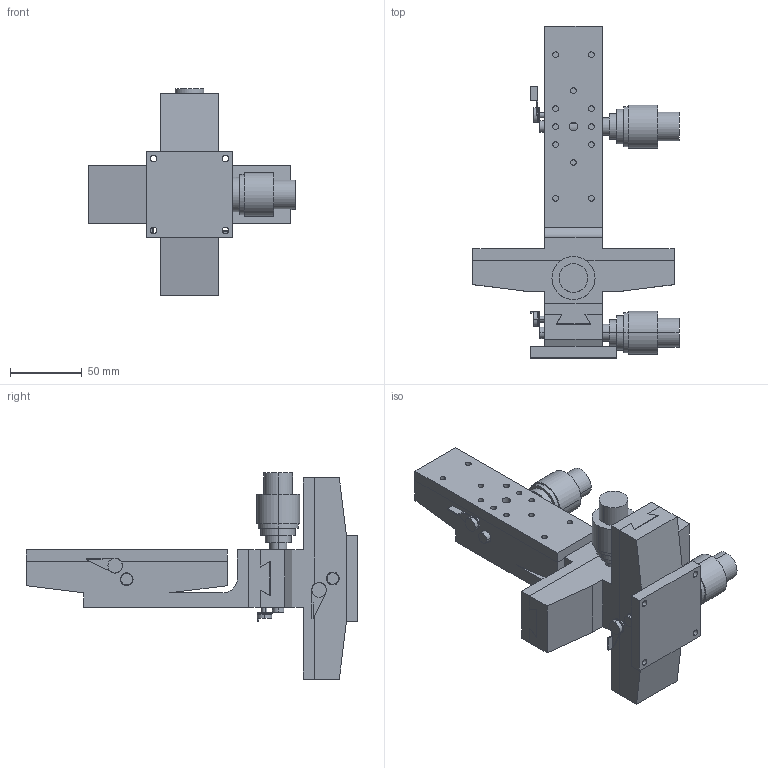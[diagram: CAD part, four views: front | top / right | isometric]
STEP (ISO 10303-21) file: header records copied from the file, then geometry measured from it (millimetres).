
FILE_DESCRIPTION (( 'STEP AP203' ), '1' );
FILE_NAME ('LT-112SL.STEP', '2008-03-04T00:27:05', ( '' ), ( '' ), 'SwSTEP 2.0', 'SolidWorks 2007', '' );
FILE_SCHEMA (( 'CONFIG_CONTROL_DESIGN' ));
Length unit declared in the file: millimetre
Products named in the file (5): LT-112SL-4; LT-112SL; LT-112SL-1; LT-112SL-3; LT-112SL-2
Assembly tree (4 placements, depth 2):
  LT-112SL
    LT-112SL-1
    LT-112SL-4
    LT-112SL-3
    LT-112SL-2
Bounding box: 143.5 x 231 x 143.5 mm (x, y, z)
Volume: 644220 mm3; surface area: 149275.7 mm2
Topology: 4 solids, 6 shells, 373 faces, 900 edges, 595 vertices
Faces by surface type: plane 193, cylinder 180
Entity records: 11626 total; most frequent: DIRECTION 2019, CARTESIAN_POINT 1893, ORIENTED_EDGE 1800, EDGE_CURVE 900, AXIS2_PLACEMENT_3D 745, VERTEX_POINT 595, VECTOR 529, LINE 529
